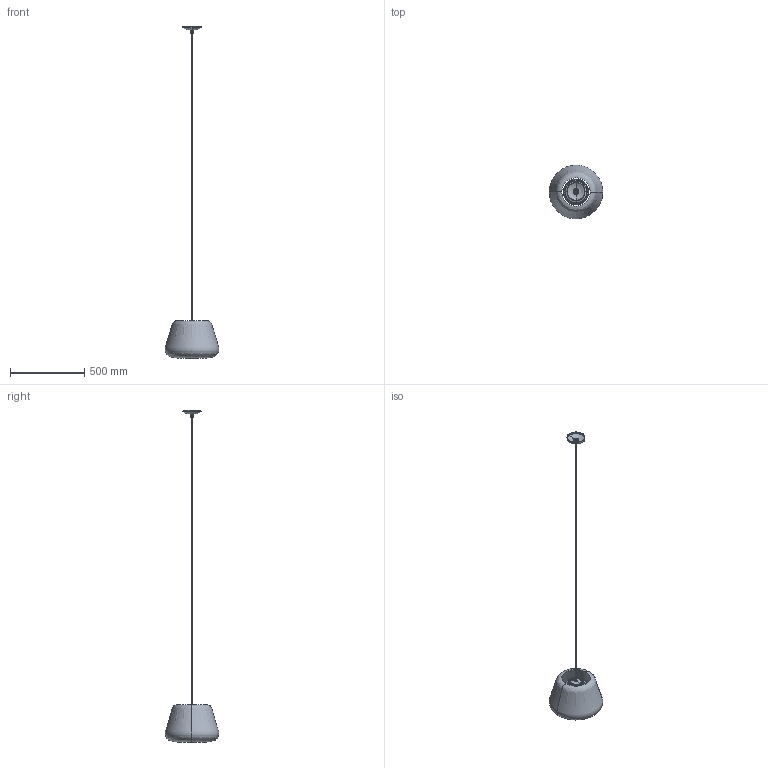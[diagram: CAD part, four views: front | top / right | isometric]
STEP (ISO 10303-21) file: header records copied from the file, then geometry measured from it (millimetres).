
FILE_DESCRIPTION(/* description */ (''),/* implementation_level */ '2;1');
FILE_NAME(/* name */ 'EL04744.035.0000',/* time_stamp */ '2024-10-22T10:28:59+02:00',/* author */ (''),/* organization */ (''),/* preprocessor_version */ 'ST-DEVELOPER v16.5',/* originating_system */ '',/* authorisation */ '');
FILE_SCHEMA (('AUTOMOTIVE_DESIGN'));
Length unit declared in the file: millimetre
Products named in the file (1): Document
Bounding box: 362.85 x 362.37 x 2239.14 mm (x, y, z)
Volume: 830642.4 mm3; surface area: 1044562 mm2
Topology: 14 solids, 14 shells, 1054 faces, 2600 edges, 1595 vertices
Faces by surface type: bspline 534, plane 520
Entity records: 58467 total; most frequent: CARTESIAN_POINT 42724, ORIENTED_EDGE 5152, EDGE_CURVE 2576, VERTEX_POINT 1595, B_SPLINE_CURVE_WITH_KNOTS 1432, EDGE_LOOP 1131, ADVANCED_FACE 1054, FACE_OUTER_BOUND 1054
